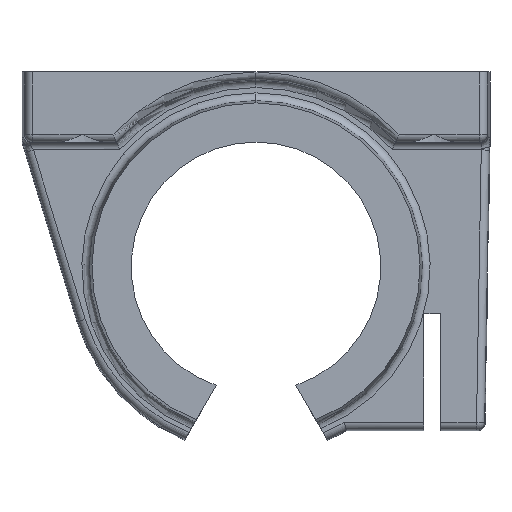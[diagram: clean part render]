
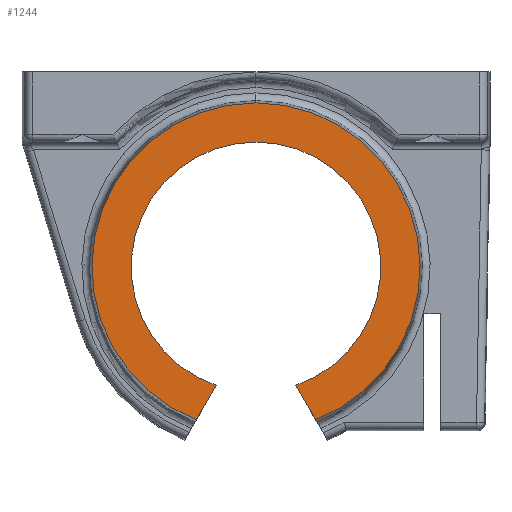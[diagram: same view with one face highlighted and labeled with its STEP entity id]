
A CAD part, front view. The second image highlights one B-rep face of the part: STEP entity #1244.
In plain terms, the highlighted planar face has unit normal (0, -1, 0).
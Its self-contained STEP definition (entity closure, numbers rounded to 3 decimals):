
#53 = DIRECTION ( 'NONE',  ( 0., 1., 0. ) ) ;
#115 = VERTEX_POINT ( 'NONE', #1666 ) ;
#130 = DIRECTION ( 'NONE',  ( 0., -1., 0. ) ) ;
#137 = DIRECTION ( 'NONE',  ( 0., 1., 0. ) ) ;
#289 = LINE ( 'NONE', #1437, #3758 ) ;
#336 = EDGE_CURVE ( 'NONE', #4720, #2602, #1934, .T. ) ;
#432 = CARTESIAN_POINT ( 'NONE',  ( 0., -14., -22. ) ) ;
#458 = CARTESIAN_POINT ( 'NONE',  ( 0., -14., -22. ) ) ;
#463 = EDGE_LOOP ( 'NONE', ( #2069, #3695, #699, #1981, #1409, #2156 ) ) ;
#510 = EDGE_CURVE ( 'NONE', #3899, #990, #289, .T. ) ;
#699 = ORIENTED_EDGE ( 'NONE', *, *, #3439, .F. ) ;
#731 = CARTESIAN_POINT ( 'NONE',  ( -2.742, -14., -23.583 ) ) ;
#797 = CARTESIAN_POINT ( 'NONE',  ( -7.652, -14., -41.586 ) ) ;
#828 = DIRECTION ( 'NONE',  ( 0., 1., 0. ) ) ;
#925 = FACE_OUTER_BOUND ( 'NONE', #463, .T. ) ;
#940 = DIRECTION ( 'NONE',  ( 0., 1., 0. ) ) ;
#990 = VERTEX_POINT ( 'NONE', #797 ) ;
#1163 = CARTESIAN_POINT ( 'NONE',  ( -5.1, -14., -37.165 ) ) ;
#1244 = ADVANCED_FACE ( 'NONE', ( #925 ), #3724, .T. ) ;
#1252 = DIRECTION ( 'NONE',  ( 0., 0., -1. ) ) ;
#1357 = LINE ( 'NONE', #731, #2767 ) ;
#1409 = ORIENTED_EDGE ( 'NONE', *, *, #3238, .T. ) ;
#1437 = CARTESIAN_POINT ( 'NONE',  ( 2.742, -14., -23.583 ) ) ;
#1492 = CIRCLE ( 'NONE', #1946, 21.028 ) ;
#1593 = DIRECTION ( 'NONE',  ( 0., 0., -1. ) ) ;
#1666 = CARTESIAN_POINT ( 'NONE',  ( 0., -14., -6. ) ) ;
#1733 = CARTESIAN_POINT ( 'NONE',  ( 0., -14., -0.972 ) ) ;
#1934 = CIRCLE ( 'NONE', #3207, 21.028 ) ;
#1946 = AXIS2_PLACEMENT_3D ( 'NONE', #4191, #940, #2372 ) ;
#1949 = CARTESIAN_POINT ( 'NONE',  ( 0., -14., -22. ) ) ;
#1981 = ORIENTED_EDGE ( 'NONE', *, *, #510, .F. ) ;
#2069 = ORIENTED_EDGE ( 'NONE', *, *, #2824, .F. ) ;
#2095 = AXIS2_PLACEMENT_3D ( 'NONE', #432, #53, #2808 ) ;
#2156 = ORIENTED_EDGE ( 'NONE', *, *, #2214, .T. ) ;
#2214 = EDGE_CURVE ( 'NONE', #115, #2708, #2832, .T. ) ;
#2372 = DIRECTION ( 'NONE',  ( 0., 0., -1. ) ) ;
#2459 = DIRECTION ( 'NONE',  ( -0.5, 0., 0.866 ) ) ;
#2602 = VERTEX_POINT ( 'NONE', #2633 ) ;
#2624 = DIRECTION ( 'NONE',  ( 0., 0., -1. ) ) ;
#2633 = CARTESIAN_POINT ( 'NONE',  ( 7.652, -14., -41.586 ) ) ;
#2693 = AXIS2_PLACEMENT_3D ( 'NONE', #458, #130, #1252 ) ;
#2708 = VERTEX_POINT ( 'NONE', #4557 ) ;
#2767 = VECTOR ( 'NONE', #2459, 1000. ) ;
#2808 = DIRECTION ( 'NONE',  ( 0., 0., -1. ) ) ;
#2824 = EDGE_CURVE ( 'NONE', #2602, #2708, #1357, .T. ) ;
#2832 = CIRCLE ( 'NONE', #3907, 16. ) ;
#3159 = DIRECTION ( 'NONE',  ( -0.5, 0., -0.866 ) ) ;
#3207 = AXIS2_PLACEMENT_3D ( 'NONE', #3385, #828, #2624 ) ;
#3238 = EDGE_CURVE ( 'NONE', #3899, #115, #4537, .T. ) ;
#3385 = CARTESIAN_POINT ( 'NONE',  ( 0., -14., -22. ) ) ;
#3439 = EDGE_CURVE ( 'NONE', #990, #4720, #1492, .T. ) ;
#3695 = ORIENTED_EDGE ( 'NONE', *, *, #336, .F. ) ;
#3724 = PLANE ( 'NONE',  #2693 ) ;
#3758 = VECTOR ( 'NONE', #3159, 1000. ) ;
#3899 = VERTEX_POINT ( 'NONE', #1163 ) ;
#3907 = AXIS2_PLACEMENT_3D ( 'NONE', #1949, #137, #1593 ) ;
#4191 = CARTESIAN_POINT ( 'NONE',  ( 0., -14., -22. ) ) ;
#4537 = CIRCLE ( 'NONE', #2095, 16. ) ;
#4557 = CARTESIAN_POINT ( 'NONE',  ( 5.1, -14., -37.165 ) ) ;
#4720 = VERTEX_POINT ( 'NONE', #1733 ) ;
